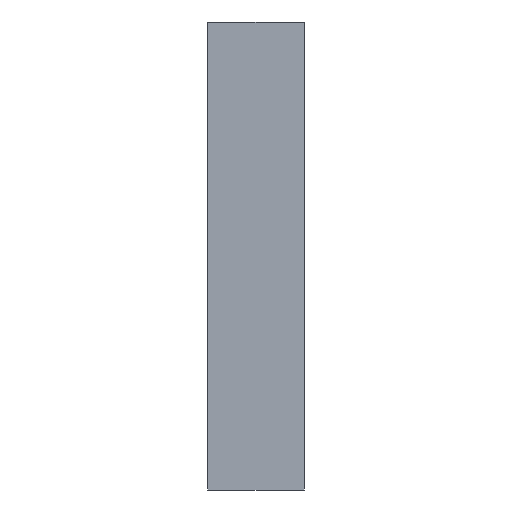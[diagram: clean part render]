
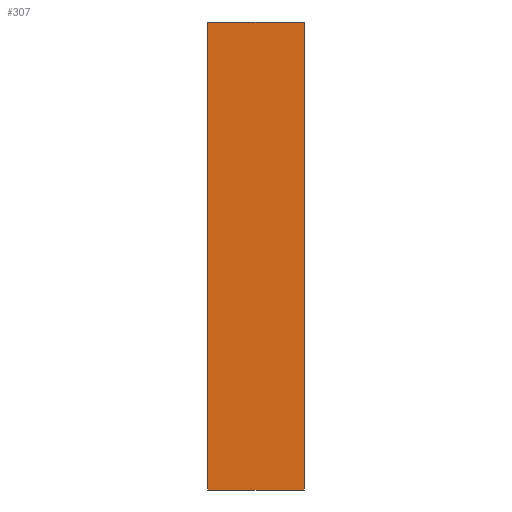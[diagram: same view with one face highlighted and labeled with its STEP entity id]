
A CAD part, left-side view. The second image highlights one B-rep face of the part: STEP entity #307.
In plain terms, the highlighted planar face has unit normal (-1, 0, 0).
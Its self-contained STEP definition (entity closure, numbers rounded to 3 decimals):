
#110=CARTESIAN_POINT('Vertex',(-42.5,12.,-29.)) ;
#113=CARTESIAN_POINT('Line Origine',(-42.5,12.,0.)) ;
#117=CARTESIAN_POINT('Vertex',(-42.5,12.,29.)) ;
#269=CARTESIAN_POINT('Vertex',(-42.5,0.,-29.)) ;
#272=CARTESIAN_POINT('Line Origine',(-42.5,6.,-29.)) ;
#284=CARTESIAN_POINT('Axis2P3D Location',(-42.5,0.,29.)) ;
#289=CARTESIAN_POINT('Line Origine',(-42.5,0.,0.)) ;
#293=CARTESIAN_POINT('Vertex',(-42.5,0.,29.)) ;
#296=CARTESIAN_POINT('Line Origine',(-42.5,6.,29.)) ;
#114=DIRECTION('Vector Direction',(0.,0.,-1.)) ;
#273=DIRECTION('Vector Direction',(0.,1.,0.)) ;
#285=DIRECTION('Axis2P3D Direction',(1.,0.,0.)) ;
#286=DIRECTION('Axis2P3D XDirection',(0.,0.,-1.)) ;
#290=DIRECTION('Vector Direction',(0.,0.,-1.)) ;
#297=DIRECTION('Vector Direction',(0.,1.,0.)) ;
#287=AXIS2_PLACEMENT_3D('Plane Axis2P3D',#284,#285,#286) ;
#302=ORIENTED_EDGE('',*,*,#276,.F.) ;
#303=ORIENTED_EDGE('',*,*,#295,.T.) ;
#304=ORIENTED_EDGE('',*,*,#300,.T.) ;
#305=ORIENTED_EDGE('',*,*,#119,.F.) ;
#115=VECTOR('Line Direction',#114,1.) ;
#274=VECTOR('Line Direction',#273,1.) ;
#291=VECTOR('Line Direction',#290,1.) ;
#298=VECTOR('Line Direction',#297,1.) ;
#307=ADVANCED_FACE('',(#306),#288,.F.) ;
#119=EDGE_CURVE('',#111,#118,#116,.F.) ;
#276=EDGE_CURVE('',#270,#111,#275,.T.) ;
#295=EDGE_CURVE('',#270,#294,#292,.F.) ;
#300=EDGE_CURVE('',#294,#118,#299,.T.) ;
#301=EDGE_LOOP('',(#302,#303,#304,#305)) ;
#306=FACE_OUTER_BOUND('',#301,.T.) ;
#116=LINE('Line',#113,#115) ;
#275=LINE('Line',#272,#274) ;
#292=LINE('Line',#289,#291) ;
#299=LINE('Line',#296,#298) ;
#288=PLANE('Plane',#287) ;
#111=VERTEX_POINT('',#110) ;
#118=VERTEX_POINT('',#117) ;
#270=VERTEX_POINT('',#269) ;
#294=VERTEX_POINT('',#293) ;
